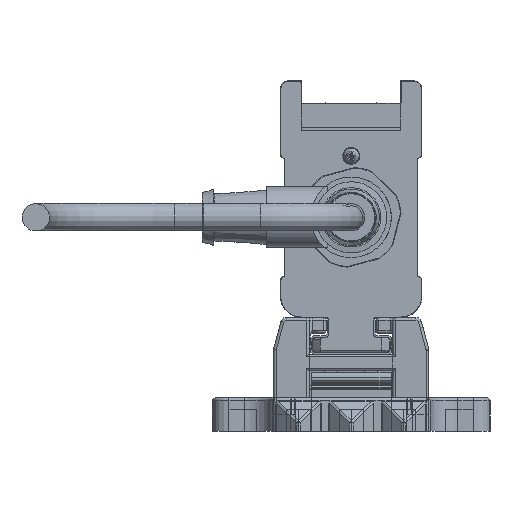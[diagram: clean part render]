
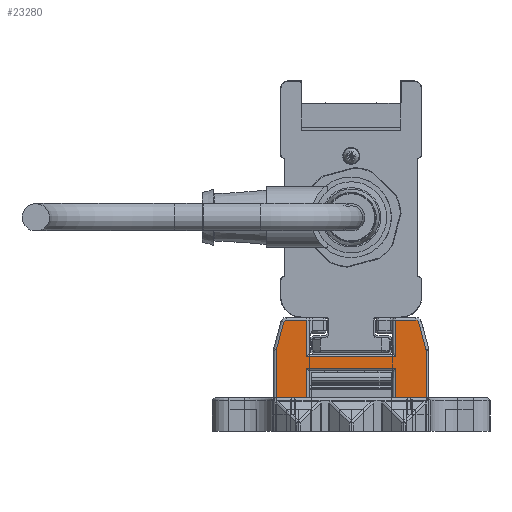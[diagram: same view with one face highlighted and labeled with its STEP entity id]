
A CAD part, left-side view. The second image highlights one B-rep face of the part: STEP entity #23280.
In plain terms, the highlighted planar face has unit normal (-1, 0, 0).
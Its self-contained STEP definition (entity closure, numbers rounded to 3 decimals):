
#23280=ADVANCED_FACE('', (#23290), #23300, .T.);
#141290=AXIS2_PLACEMENT_3D('Ax2Pl3d', #141300, #141310, #141320);
#141530=AXIS2_PLACEMENT_3D('Ax2Pl3d', #141540, #141550, #141560);
#146410=AXIS2_PLACEMENT_3D('Ax2Pl3d', #146420, #146430, #146440);
#151490=AXIS2_PLACEMENT_3D('Ax2Pl3d', #151500, #151510, #151520);
#161170=AXIS2_PLACEMENT_3D('Ax2Pl3d', #161180, #161190, #161200);
#583560=CARTESIAN_POINT('', (-747.669,-3126.345,
331.37));
#141300=CARTESIAN_POINT('HicPkt', (-747.669,-3125.379,
331.111));
#583570=CARTESIAN_POINT('', (-747.669,-3126.379,
331.111));
#583580=CARTESIAN_POINT('', (-747.669,-3125.037,
336.255));
#583600=CARTESIAN_POINT('', (-747.669,-3125.037,
336.255));
#583630=CARTESIAN_POINT('', (-747.669,-3124.554,
336.625));
#141540=CARTESIAN_POINT('HicPkt', (-747.669,-3124.554,
336.125));
#583850=CARTESIAN_POINT('', (-747.669,-3126.379,
322.625));
#583860=CARTESIAN_POINT('', (-747.669,-3120.881,
322.625));
#583870=CARTESIAN_POINT('', (-747.669,-3120.881,
322.625));
#583950=CARTESIAN_POINT('', (-747.669,-3104.881,
322.625));
#583960=CARTESIAN_POINT('', (-747.669,-3099.383,
322.625));
#583970=CARTESIAN_POINT('', (-747.669,-3099.383,
322.625));
#146420=CARTESIAN_POINT('HicPkt', (-747.669,-3101.209,
336.125));
#586440=CARTESIAN_POINT('', (-747.669,-3100.726,
336.255));
#586450=CARTESIAN_POINT('', (-747.669,-3101.209,
336.625));
#586460=CARTESIAN_POINT('', (-747.669,-3120.881,
330.025));
#586470=CARTESIAN_POINT('', (-747.669,-3104.881,
330.025));
#586480=CARTESIAN_POINT('', (-747.669,-3120.881,
330.025));
#586640=CARTESIAN_POINT('', (-747.669,-3120.881,
328.005));
#586650=CARTESIAN_POINT('', (-747.669,-3104.881,
328.005));
#586660=CARTESIAN_POINT('', (-747.669,-3104.881,
328.005));
#586670=CARTESIAN_POINT('', (-747.669,-3120.881,
328.005));
#586690=CARTESIAN_POINT('', (-747.669,-3104.881,
322.625));
#586700=CARTESIAN_POINT('', (-747.669,-3104.881,
330.025));
#586710=CARTESIAN_POINT('', (-747.669,-3104.881,
336.625));
#587560=CARTESIAN_POINT('', (-747.669,-3104.881,
336.625));
#587570=CARTESIAN_POINT('', (-747.669,-3100.726,
336.255));
#587580=CARTESIAN_POINT('', (-747.669,-3099.417,
331.37));
#587770=CARTESIAN_POINT('', (-747.669,-3099.383,
331.111));
#587780=CARTESIAN_POINT('', (-747.669,-3099.383,
331.111));
#151500=CARTESIAN_POINT('HicPkt', (-747.669,-3100.383,
331.111));
#588590=CARTESIAN_POINT('', (-747.669,-3126.379,
331.111));
#161180=CARTESIAN_POINT('HicPkt', (-747.669,-3124.554,
336.625));
#590390=CARTESIAN_POINT('', (-747.669,-3120.881,336.625)
);
#590400=CARTESIAN_POINT('', (-747.669,-3120.881,336.625)
);
#590410=CARTESIAN_POINT('', (-747.669,-3120.881,336.625)
);
#675070=CIRCLE('Circle', #141290, 1.);
#675110=CIRCLE('Circle', #141530, 0.5);
#675690=CIRCLE('Circle', #146410, 0.5);
#676220=CIRCLE('Circle', #151490, 1.);
#141310=DIRECTION('Axis', (-1.,0.,
0.));
#141320=DIRECTION('RefDirection', (0.,
0.,-1.));
#942570=DIRECTION('', (0.,0.259,
0.966));
#141550=DIRECTION('Axis', (-1.,0.,
0.));
#141560=DIRECTION('RefDirection', (0.,
0.,-1.));
#942680=DIRECTION('', (0.,1.,0.));
#942720=DIRECTION('', (0.,1.,0.));
#146430=DIRECTION('Axis', (1.,0.,
0.));
#146440=DIRECTION('RefDirection', (0.,
0.,-1.));
#943910=DIRECTION('', (0.,-1.,0.));
#944010=DIRECTION('', (0.,1.,0.));
#944020=DIRECTION('', (0.,0.,1.));
#944040=DIRECTION('', (0.,0.,-1.));
#944050=DIRECTION('', (0.,0.,-1.));
#944480=DIRECTION('', (0.,-1.,0.));
#944490=DIRECTION('', (0.,-0.259,0.966));
#944580=DIRECTION('', (0.,0.,1.));
#151510=DIRECTION('Axis', (1.,0.,
0.));
#151520=DIRECTION('RefDirection', (0.,
0.,-1.));
#944950=DIRECTION('', (0.,0.,1.));
#161190=DIRECTION('Axis', (-1.,0.,
0.));
#161200=DIRECTION('RefDirection', (0.,
0.,-1.));
#945790=DIRECTION('', (0.,1.,0.));
#945800=DIRECTION('', (0.,0.,1.));
#1009400=EDGE_CURVE('', #1009410, #1009390, #675070, .T.);
#1009460=EDGE_CURVE('', #1009390, #1009440, #1009470, .T.);
#1009530=EDGE_CURVE('', #1009440, #1009520, #675110, .T.);
#1009980=EDGE_CURVE('', #1009970, #1009990, #1010000, .T.);
#1010140=EDGE_CURVE('', #1010130, #1010150, #1010160, .T.);
#1014500=EDGE_CURVE('', #1014510, #1014520, #675690, .T.);
#1014550=EDGE_CURVE('', #1014560, #1014570, #1014580, .T.);
#1014920=EDGE_CURVE('', #1014900, #1014930, #1014940, .T.);
#1014970=EDGE_CURVE('', #1009990, #1014900, #1014980, .T.);
#1015010=EDGE_CURVE('', #1014930, #1010130, #1015020, .T.);
#1015030=EDGE_CURVE('', #1015040, #1014560, #1015050, .T.);
#1016870=EDGE_CURVE('', #1014520, #1015040, #1016880, .T.);
#1016940=EDGE_CURVE('', #1016950, #1014510, #1016960, .T.);
#1017380=EDGE_CURVE('', #1010150, #1017390, #1017400, .T.);
#1017420=EDGE_CURVE('', #1017390, #1016950, #676220, .T.);
#1019130=EDGE_CURVE('', #1009970, #1009410, #1019140, .T.);
#1022940=EDGE_CURVE('', #1009520, #1022950, #1022960, .T.);
#1022970=EDGE_CURVE('', #1014570, #1022950, #1022980, .T.);
#1216860=EDGE_LOOP('Edge_loop', (#1216870,#1216880,#1216890,#1216900,
#1216910,#1216920,#1216930,#1216940,#1216950,#1216960,#1216970,
#1216980,#1216990,#1217000,#1217010,#1217020,#1217030,#1217040));
#23290=FACE_OUTER_BOUND('Face_outer_bound', #1216860, .T.);
#1009470=LINE('Line', #583600, #1391440);
#1010000=LINE('Line', #583860, #1391550);
#1010160=LINE('Line', #583960, #1391590);
#1014580=LINE('Line', #586460, #1392780);
#1014940=LINE('Line', #586650, #1392880);
#1014980=LINE('Line', #586670, #1392890);
#1015020=LINE('Line', #586690, #1392910);
#1015050=LINE('Line', #586700, #1392920);
#1016880=LINE('Line', #587560, #1393350);
#1016960=LINE('Line', #587570, #1393360);
#1017400=LINE('Line', #587770, #1393450);
#1019140=LINE('Line', #588590, #1393820);
#1022960=LINE('Line', #590390, #1394660);
#1022980=LINE('Line', #590410, #1394670);
#1216870=ORIENTED_EDGE('', *, *, #1022940, .T.);
#1216880=ORIENTED_EDGE('', *, *, #1022970, .F.);
#1216890=ORIENTED_EDGE('', *, *, #1014550, .F.);
#1216900=ORIENTED_EDGE('', *, *, #1015030, .F.);
#1216910=ORIENTED_EDGE('', *, *, #1016870, .F.);
#1216920=ORIENTED_EDGE('', *, *, #1014500, .F.);
#1216930=ORIENTED_EDGE('', *, *, #1016940, .F.);
#1216940=ORIENTED_EDGE('', *, *, #1017420, .F.);
#1216950=ORIENTED_EDGE('', *, *, #1017380, .F.);
#1216960=ORIENTED_EDGE('', *, *, #1010140, .F.);
#1216970=ORIENTED_EDGE('', *, *, #1015010, .F.);
#1216980=ORIENTED_EDGE('', *, *, #1014920, .F.);
#1216990=ORIENTED_EDGE('', *, *, #1014970, .F.);
#1217000=ORIENTED_EDGE('', *, *, #1009980, .F.);
#1217010=ORIENTED_EDGE('', *, *, #1019130, .T.);
#1217020=ORIENTED_EDGE('', *, *, #1009400, .T.);
#1217030=ORIENTED_EDGE('', *, *, #1009460, .T.);
#1217040=ORIENTED_EDGE('', *, *, #1009530, .T.);
#23300=PLANE('Plane', #161170);
#1391440=VECTOR('', #942570, 5.057);
#1391550=VECTOR('', #942680, 5.498);
#1391590=VECTOR('', #942720, 5.498);
#1392780=VECTOR('', #943910, 16.);
#1392880=VECTOR('', #944010, 16.);
#1392890=VECTOR('', #944020, 5.38);
#1392910=VECTOR('', #944040, 5.38);
#1392920=VECTOR('', #944050, 6.6);
#1393350=VECTOR('', #944480, 3.672);
#1393360=VECTOR('', #944490, 5.057);
#1393450=VECTOR('', #944580, 8.486);
#1393820=VECTOR('', #944950, 8.486);
#1394660=VECTOR('', #945790, 3.672);
#1394670=VECTOR('', #945800, 6.6);
#1009390=VERTEX_POINT('', #583560);
#1009410=VERTEX_POINT('', #583570);
#1009440=VERTEX_POINT('', #583580);
#1009520=VERTEX_POINT('', #583630);
#1009970=VERTEX_POINT('', #583850);
#1009990=VERTEX_POINT('', #583870);
#1010130=VERTEX_POINT('', #583950);
#1010150=VERTEX_POINT('', #583970);
#1014510=VERTEX_POINT('', #586440);
#1014520=VERTEX_POINT('', #586450);
#1014560=VERTEX_POINT('', #586470);
#1014570=VERTEX_POINT('', #586480);
#1014900=VERTEX_POINT('', #586640);
#1014930=VERTEX_POINT('', #586660);
#1015040=VERTEX_POINT('', #586710);
#1016950=VERTEX_POINT('', #587580);
#1017390=VERTEX_POINT('', #587780);
#1022950=VERTEX_POINT('', #590400);
